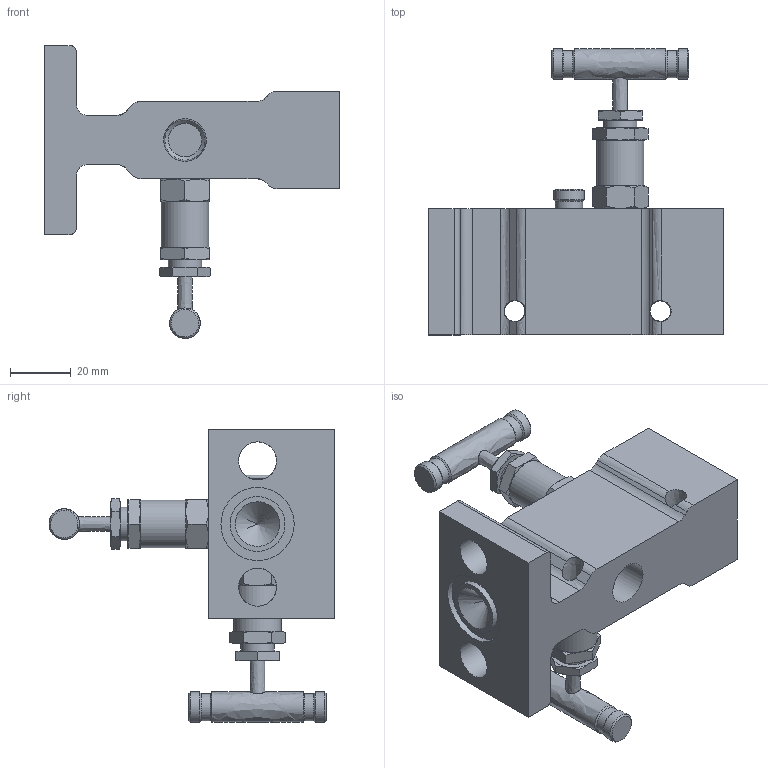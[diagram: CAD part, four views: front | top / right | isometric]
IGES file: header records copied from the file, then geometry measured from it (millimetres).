
Global section: file name: SM2VF-F-8N-S316; native system: Autodesk Inventor 2016; preprocessor: unknown; author: 이승민,,11,0; organization: 20161214.090507; date: 20161216.192105; units: millimetre
Bounding box: 97 x 93.8 x 96.1 mm (x, y, z)
Volume: 122393.7 mm3; surface area: 32461.8 mm2
Topology: 3 solids, 3 shells, 227 faces, 590 edges, 393 vertices
Faces by surface type: bspline 227
